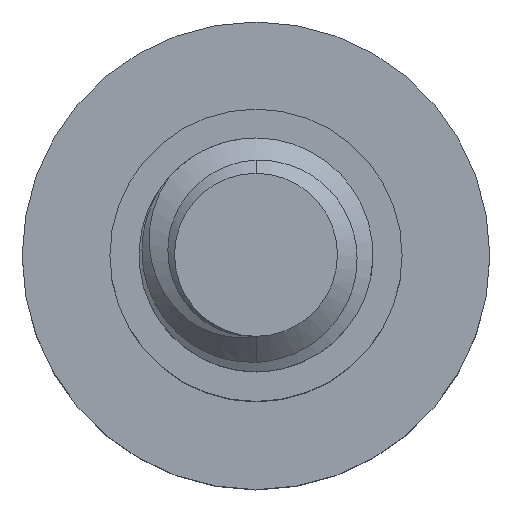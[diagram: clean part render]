
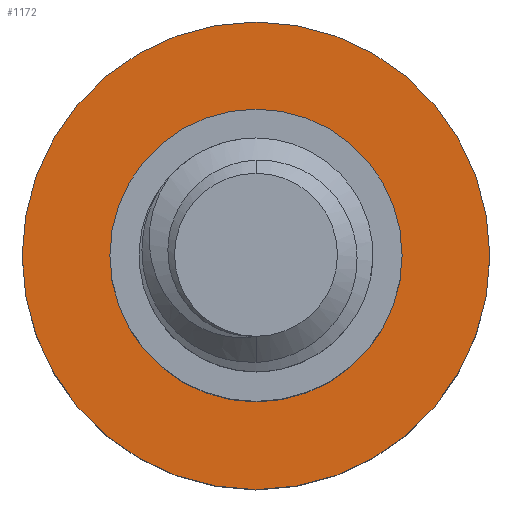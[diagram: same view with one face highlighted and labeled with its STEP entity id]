
A CAD part, top view. The second image highlights one B-rep face of the part: STEP entity #1172.
In plain terms, the highlighted planar face has unit normal (0, 0, 1).
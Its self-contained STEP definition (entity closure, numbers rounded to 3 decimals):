
#17 = CARTESIAN_POINT ( 'NONE',  ( -4., 0., -5. ) ) ;
#60 = CIRCLE ( 'NONE', #282, 2.5 ) ;
#117 = CARTESIAN_POINT ( 'NONE',  ( 0., 0., -5. ) ) ;
#175 = DIRECTION ( 'NONE',  ( -1., 0., 0. ) ) ;
#181 = CARTESIAN_POINT ( 'NONE',  ( 2.5, 0., -5. ) ) ;
#242 = ORIENTED_EDGE ( 'NONE', *, *, #521, .F. ) ;
#243 = CARTESIAN_POINT ( 'NONE',  ( -2.5, 0., -5. ) ) ;
#262 = DIRECTION ( 'NONE',  ( 0., 0., -1. ) ) ;
#282 = AXIS2_PLACEMENT_3D ( 'NONE', #1390, #1399, #175 ) ;
#311 = DIRECTION ( 'NONE',  ( 0., 0., -1. ) ) ;
#367 = EDGE_LOOP ( 'NONE', ( #889, #1469 ) ) ;
#480 = PLANE ( 'NONE',  #1896 ) ;
#489 = DIRECTION ( 'NONE',  ( -1., 0., 0. ) ) ;
#499 = DIRECTION ( 'NONE',  ( 0., 0., -1. ) ) ;
#521 = EDGE_CURVE ( 'NONE', #969, #993, #1928, .T. ) ;
#590 = DIRECTION ( 'NONE',  ( -1., 0., 0. ) ) ;
#641 = FACE_BOUND ( 'NONE', #367, .T. ) ;
#712 = CIRCLE ( 'NONE', #1649, 2.5 ) ;
#781 = EDGE_CURVE ( 'NONE', #993, #969, #1337, .T. ) ;
#837 = VERTEX_POINT ( 'NONE', #181 ) ;
#879 = CARTESIAN_POINT ( 'NONE',  ( 4., 0., -5. ) ) ;
#889 = ORIENTED_EDGE ( 'NONE', *, *, #1211, .T. ) ;
#899 = DIRECTION ( 'NONE',  ( -1., 0., 0. ) ) ;
#964 = DIRECTION ( 'NONE',  ( 0., 0., -1. ) ) ;
#969 = VERTEX_POINT ( 'NONE', #17 ) ;
#993 = VERTEX_POINT ( 'NONE', #879 ) ;
#1172 = ADVANCED_FACE ( 'NONE', ( #641, #1312 ), #480, .F. ) ;
#1211 = EDGE_CURVE ( 'NONE', #1902, #837, #60, .T. ) ;
#1312 = FACE_OUTER_BOUND ( 'NONE', #1793, .T. ) ;
#1331 = CARTESIAN_POINT ( 'NONE',  ( 0., 0., -5. ) ) ;
#1337 = CIRCLE ( 'NONE', #1968, 4. ) ;
#1390 = CARTESIAN_POINT ( 'NONE',  ( 0., 0., -5. ) ) ;
#1399 = DIRECTION ( 'NONE',  ( 0., 0., -1. ) ) ;
#1469 = ORIENTED_EDGE ( 'NONE', *, *, #2102, .T. ) ;
#1505 = AXIS2_PLACEMENT_3D ( 'NONE', #1744, #262, #590 ) ;
#1629 = DIRECTION ( 'NONE',  ( -1., 0., 0. ) ) ;
#1649 = AXIS2_PLACEMENT_3D ( 'NONE', #117, #964, #1629 ) ;
#1744 = CARTESIAN_POINT ( 'NONE',  ( 0., 0., -5. ) ) ;
#1793 = EDGE_LOOP ( 'NONE', ( #2153, #242 ) ) ;
#1808 = CARTESIAN_POINT ( 'NONE',  ( 0., 0., -5. ) ) ;
#1896 = AXIS2_PLACEMENT_3D ( 'NONE', #1808, #311, #899 ) ;
#1902 = VERTEX_POINT ( 'NONE', #243 ) ;
#1928 = CIRCLE ( 'NONE', #1505, 4. ) ;
#1968 = AXIS2_PLACEMENT_3D ( 'NONE', #1331, #499, #489 ) ;
#2102 = EDGE_CURVE ( 'NONE', #837, #1902, #712, .T. ) ;
#2153 = ORIENTED_EDGE ( 'NONE', *, *, #781, .F. ) ;
